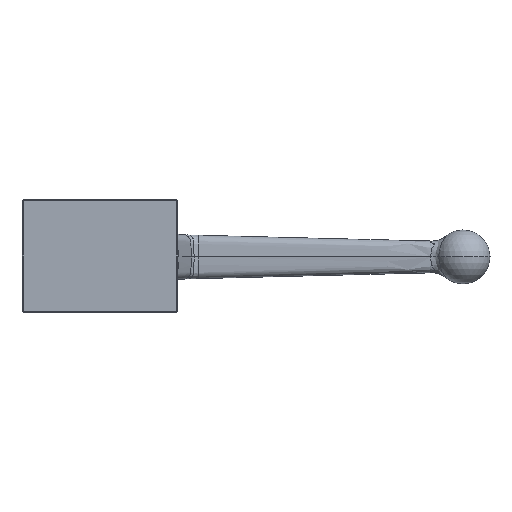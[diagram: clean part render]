
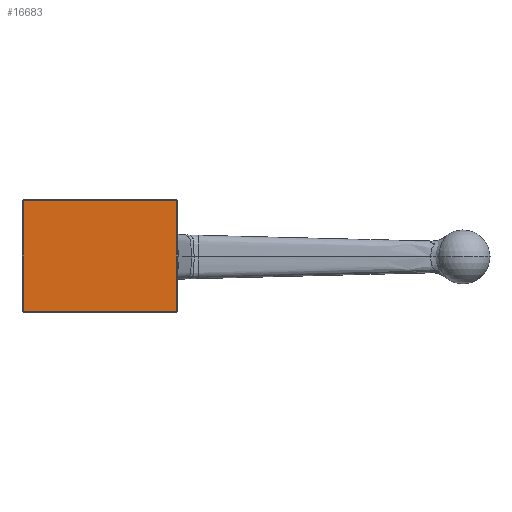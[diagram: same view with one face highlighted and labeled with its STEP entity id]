
A CAD part, left-side view. The second image highlights one B-rep face of the part: STEP entity #16683.
In plain terms, the highlighted planar face has unit normal (-1, 0, 0).
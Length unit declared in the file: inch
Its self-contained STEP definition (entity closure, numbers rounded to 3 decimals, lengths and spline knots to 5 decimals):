
#3270 = LINE ( 'NONE', #39161, #51434 ) ;
#3642 = VERTEX_POINT ( 'NONE', #29615 ) ;
#8219 = LINE ( 'NONE', #16770, #31631 ) ;
#11458 = CARTESIAN_POINT ( 'NONE',  ( -0.26694, 2.66169, 3.1926 ) ) ;
#12495 = EDGE_CURVE ( 'NONE', #3642, #22892, #8219, .T. ) ;
#12642 = DIRECTION ( 'NONE',  ( 0., 1., 0. ) ) ;
#13440 = VERTEX_POINT ( 'NONE', #24648 ) ;
#15796 = ORIENTED_EDGE ( 'NONE', *, *, #21034, .T. ) ;
#16683 = ADVANCED_FACE ( 'NONE', ( #58123 ), #17215, .F. ) ;
#16770 = CARTESIAN_POINT ( 'NONE',  ( -0.26694, -0.05331, 1.2276 ) ) ;
#16788 = LINE ( 'NONE', #25577, #53421 ) ;
#17215 = PLANE ( 'NONE',  #51764 ) ;
#18075 = DIRECTION ( 'NONE',  ( 1., 0., 0. ) ) ;
#20597 = DIRECTION ( 'NONE',  ( 0., -1., 0. ) ) ;
#20932 = CARTESIAN_POINT ( 'NONE',  ( -0.26694, -0.03331, 3.1726 ) ) ;
#21034 = EDGE_CURVE ( 'NONE', #22951, #13440, #16788, .T. ) ;
#22892 = VERTEX_POINT ( 'NONE', #44155 ) ;
#22951 = VERTEX_POINT ( 'NONE', #20932 ) ;
#24505 = ORIENTED_EDGE ( 'NONE', *, *, #45193, .T. ) ;
#24648 = CARTESIAN_POINT ( 'NONE',  ( -0.26694, 2.66169, 3.1726 ) ) ;
#25577 = CARTESIAN_POINT ( 'NONE',  ( -0.26694, -0.05331, 3.1726 ) ) ;
#26593 = VECTOR ( 'NONE', #29407, 39.37008 ) ;
#26858 = EDGE_CURVE ( 'NONE', #22892, #22951, #3270, .T. ) ;
#29407 = DIRECTION ( 'NONE',  ( 0., 0., -1. ) ) ;
#29615 = CARTESIAN_POINT ( 'NONE',  ( -0.26694, 2.66169, 1.2276 ) ) ;
#31631 = VECTOR ( 'NONE', #20597, 39.37008 ) ;
#37955 = LINE ( 'NONE', #11458, #26593 ) ;
#38429 = ORIENTED_EDGE ( 'NONE', *, *, #26858, .T. ) ;
#39161 = CARTESIAN_POINT ( 'NONE',  ( -0.26694, -0.03331, 3.1926 ) ) ;
#44155 = CARTESIAN_POINT ( 'NONE',  ( -0.26694, -0.03331, 1.2276 ) ) ;
#45193 = EDGE_CURVE ( 'NONE', #13440, #3642, #37955, .T. ) ;
#46694 = ORIENTED_EDGE ( 'NONE', *, *, #12495, .T. ) ;
#47362 = EDGE_LOOP ( 'NONE', ( #38429, #15796, #24505, #46694 ) ) ;
#51434 = VECTOR ( 'NONE', #57127, 39.37008 ) ;
#51764 = AXIS2_PLACEMENT_3D ( 'NONE', #57527, #18075, #57825 ) ;
#53421 = VECTOR ( 'NONE', #12642, 39.37008 ) ;
#57127 = DIRECTION ( 'NONE',  ( 0., 0., 1. ) ) ;
#57527 = CARTESIAN_POINT ( 'NONE',  ( -0.26694, -0.05331, 3.1926 ) ) ;
#57825 = DIRECTION ( 'NONE',  ( 0., 0., -1. ) ) ;
#58123 = FACE_OUTER_BOUND ( 'NONE', #47362, .T. ) ;
